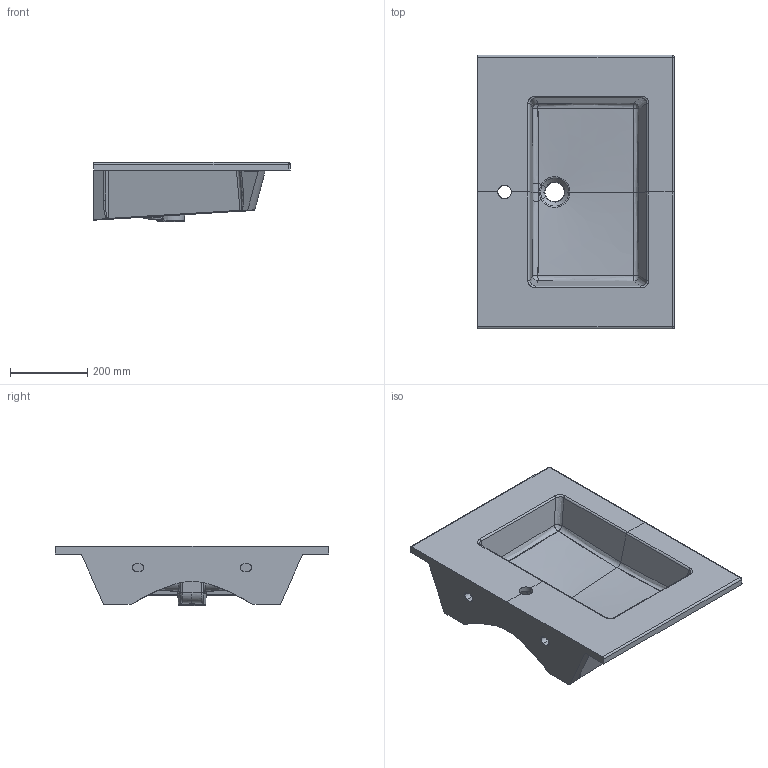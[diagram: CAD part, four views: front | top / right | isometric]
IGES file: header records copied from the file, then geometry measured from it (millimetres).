
Start section: START RECORD GO HERE.
Global section: file name: 2030_Lav PLUS 71.igs; native system: DASSAULT SYSTEMES CATIA V5 R19 - www.3ds.com; preprocessor: CATIA Version 5 Release 19 SP 5 ; author: gioge; organization: LAPTOP-G94B6G74; date: 20200622.114741; units: millimetre
Bounding box: 510.7 x 711.4 x 153.4 mm (x, y, z)
Surface area: 1192350.6 mm2 (no closed solid volume)
Topology: 0 solids, 0 shells, 364 faces, 1685 edges, 1670 vertices
Faces by surface type: bspline 186, revolution 150, plane 26, extrusion 2
